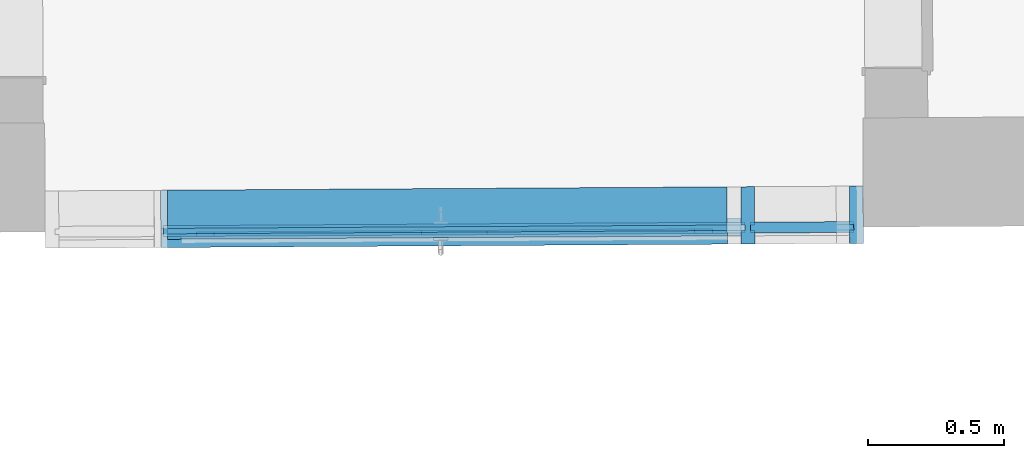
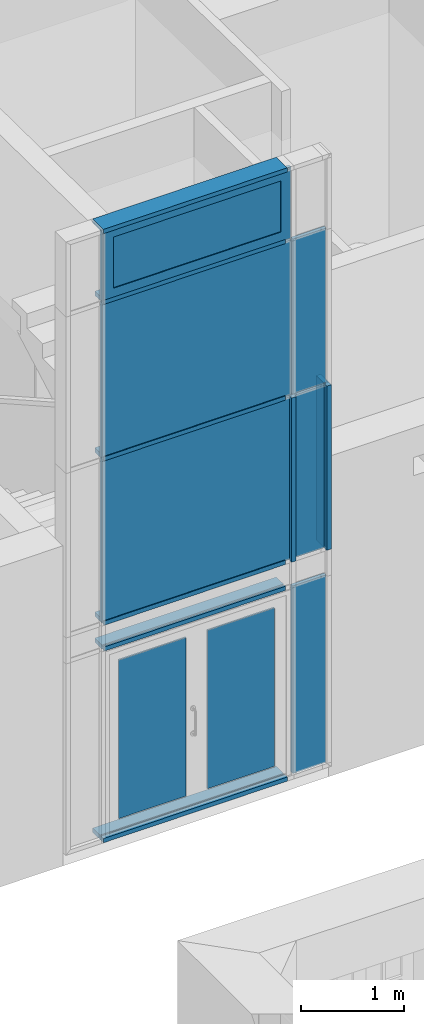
# One storey, part 117 of 196: 17 building element parts, 1 element without a shape of its own.
"""IFC2X3 building model written with IfcOpenShell, lengths in metres."""

from ifc_helpers import new_model, entity, si_unit, converted_unit, derived_unit, money_unit, direction, frame, origin_with_axes, place, context, subcontext, project, spatial, open_shell, faceted_brep, surface_model, material, type_object, element, aggregate, save


model = new_model("IFC2X3")

# Units and contexts
model_context = context("Model", 3, precision=1e-05, world=origin_with_axes(), true_north=direction((0.0, 1.0)))
body_context = subcontext(model_context, "Body", "Model", "MODEL_VIEW")
ifc_project = project(units=[si_unit("LENGTHUNIT", "METRE"), si_unit("AREAUNIT", "SQUARE_METRE"), si_unit("VOLUMEUNIT", "CUBIC_METRE"), converted_unit("PLANEANGLEUNIT", "DEGREE", entity("IfcPlaneAngleMeasure", 0.0174532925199), si_unit("PLANEANGLEUNIT", "RADIAN"), dimensions=[0, 0, 0, 0, 0, 0, 0]), money_unit("EUR"), converted_unit("TIMEUNIT", "Year", entity("IfcTimeMeasure", 31556926.0), si_unit("TIMEUNIT", "SECOND"), dimensions=[0, 0, 1, 0, 0, 0, 0]), si_unit("MASSUNIT", "GRAM", prefix="KILO"), si_unit("THERMODYNAMICTEMPERATUREUNIT", "DEGREE_CELSIUS"), si_unit("LUMINOUSINTENSITYUNIT", "LUMEN"), si_unit("ENERGYUNIT", "JOULE", prefix="MEGA"), derived_unit("THERMALCONDUCTANCEUNIT", [(si_unit("POWERUNIT", "WATT"), 1), (si_unit("LENGTHUNIT", "METRE"), -1), (si_unit("THERMODYNAMICTEMPERATUREUNIT", "KELVIN"), -1)]), derived_unit("SPECIFICHEATCAPACITYUNIT", [(si_unit("ENERGYUNIT", "JOULE"), 1), (si_unit("MASSUNIT", "GRAM", prefix="KILO"), -1), (si_unit("THERMODYNAMICTEMPERATUREUNIT", "KELVIN"), -1)]), derived_unit("MASSDENSITYUNIT", [(si_unit("MASSUNIT", "GRAM", prefix="KILO"), 1), (si_unit("VOLUMEUNIT", "CUBIC_METRE"), -1)])], contexts=[model_context])

# Site, building, storey
site_placement = place(None, origin_with_axes())
site = spatial("IfcSite", under=ifc_project, at=site_placement, Name="Gelände", CompositionType="ELEMENT")
building_placement = place(site_placement, origin_with_axes())
building = spatial("IfcBuilding", under=site, at=building_placement, Name="Gebäude", CompositionType="ELEMENT")
storey_placement = place(building_placement, frame((0.0, 0.0, -3.0), z_axis=(0.0, 0.0, 1.0), x_axis=(1.0, 0.0, 0.0)))
storey = spatial("IfcBuildingStorey", under=building, at=storey_placement, Name="KELLERGESCHOSS", CompositionType="ELEMENT", Elevation=-3.0)

# Proxy, building element parts
building_element_proxy_type = type_object("IfcBuildingElementProxyType", Name="Fassadentyp", PredefinedType="NOTDEFINED")
proxy_placement = place(storey_placement, frame((-23.8310150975, 30.9074049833, 0.410855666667), z_axis=(0.0, 0.0, 1.0), x_axis=(1.0, 0.0, 0.0)))
proxy = element("IfcBuildingElementProxy", 1, at=proxy_placement, inside=storey, type_object=building_element_proxy_type, Name="Fassade-002")
ifc_material_1 = material(Name="45_Glas, Normalglas")
building_element_part_1_placement = place(proxy_placement, origin_with_axes())
building_element_part_1 = element("IfcBuildingElementPart", 2, at=building_element_part_1_placement, material=ifc_material_1, Name="45_Glas, Normalglas", context=body_context, shape_type="Brep", body=[
    faceted_brep([(0.147138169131, 0.0208810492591, 2.26812767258), (0.0833492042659, 0.020499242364, 2.26812767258), (0.0835886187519, -0.0195000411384, 2.26812767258), (0.147377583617, -0.0191182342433, 2.26812767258), (0.147138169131, 0.0208810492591, 0.0350000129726), (0.0833492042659, 0.020499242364, 0.0350000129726), (-0.230846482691, 0.0186186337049, 0.0350000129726), (-0.230846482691, 0.0186186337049, 2.26812767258), (-0.230607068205, -0.0213806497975, 2.26812767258), (-0.230607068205, -0.0213806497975, 0.0350000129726), (0.0835886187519, -0.0195000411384, 0.0350000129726), (0.147377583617, -0.0191182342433, 0.0350000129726)], [[[0, 1, 2, 3]], [[0, 4, 5, 6, 7, 1]], [[1, 7, 8, 2]], [[3, 2, 8, 9, 10, 11]], [[4, 0, 3, 11]], [[5, 4, 11, 10]], [[6, 5, 10, 9]], [[7, 6, 9, 8]]]),
])
building_element_part_2_placement = place(proxy_placement, origin_with_axes())
building_element_part_2 = element("IfcBuildingElementPart", 3, at=building_element_part_2_placement, material=ifc_material_1, Name="45_Glas, Normalglas", context=body_context, shape_type="Brep", body=[
    faceted_brep([(-2.19772183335, -0.0171544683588, 0.195000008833), (-1.43670835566, -0.0125994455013, 0.195000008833), (-1.43661258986, -0.0285991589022, 0.195000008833), (-2.19762606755, -0.0331541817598, 0.195000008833), (-2.19772183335, -0.0171544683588, 2.08312767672), (-1.43670835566, -0.0125994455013, 2.08312767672), (-1.43661258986, -0.0285991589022, 2.08312767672), (-2.19762606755, -0.0331541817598, 2.08312767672)], [[[0, 1, 2, 3]], [[0, 4, 5, 1]], [[1, 5, 6, 2]], [[3, 2, 6, 7]], [[4, 0, 3, 7]], [[5, 4, 7, 6]]]),
    faceted_brep([(-1.19671265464, -0.0111629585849, 0.195000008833), (-0.435699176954, -0.00660793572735, 0.195000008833), (-0.435603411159, -0.0226076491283, 0.195000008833), (-1.19661688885, -0.0271626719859, 0.195000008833), (-1.19671265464, -0.0111629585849, 2.08312767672), (-0.435699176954, -0.00660793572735, 2.08312767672), (-0.435603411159, -0.0226076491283, 2.08312767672), (-1.19661688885, -0.0271626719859, 2.08312767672)], [[[0, 1, 2, 3]], [[0, 4, 5, 1]], [[1, 5, 6, 2]], [[3, 2, 6, 7]], [[4, 0, 3, 7]], [[5, 4, 7, 6]]]),
])
building_element_part_3_placement = place(proxy_placement, origin_with_axes())
building_element_part_3 = element("IfcBuildingElementPart", 4, at=building_element_part_3_placement, material=ifc_material_1, Name="45_Glas, Normalglas", context=body_context, shape_type="Brep", body=[
    faceted_brep([(-0.250846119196, 0.0184989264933, 4.53226285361), (-0.316643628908, 0.0181050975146, 4.53226285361), (-0.316404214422, -0.0218941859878, 4.53226285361), (-0.25060670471, -0.0215003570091, 4.53226285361), (-0.250846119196, 0.0184989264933, 2.59656080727), (-0.316643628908, 0.0181050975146, 2.59656080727), (-2.38286219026, 0.00573780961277, 2.59656080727), (-2.38286219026, 0.00573780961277, 4.53226285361), (-2.38262277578, -0.0342614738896, 4.53226285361), (-2.38262277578, -0.0342614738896, 2.59656080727), (-0.316404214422, -0.0218941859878, 2.59656080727), (-0.25060670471, -0.0215003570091, 2.59656080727)], [[[0, 1, 2, 3]], [[0, 4, 5, 6, 7, 1]], [[1, 7, 8, 2]], [[3, 2, 8, 9, 10, 11]], [[4, 0, 3, 11]], [[5, 4, 11, 10]], [[6, 5, 10, 9]], [[7, 6, 9, 8]]]),
])
ifc_material_2 = material(Name="53_Metall, Aluminium")
building_element_part_4_placement = place(proxy_placement, origin_with_axes())
building_element_part_4 = element("IfcBuildingElementPart", 5, at=building_element_part_4_placement, material=ifc_material_2, Name="53_Metall, Aluminium", context=body_context, shape_type="SurfaceModel", body=[
    surface_model("IfcShellBasedSurfaceModel", [(-2.36756319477, -0.0441715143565, 6.43094888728), (-2.2925645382, -0.0437226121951, 6.50594888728), (-0.340545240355, -0.0320388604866, 6.50594888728), (-0.265546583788, -0.0315899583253, 6.43094888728)], [open_shell([[[0, 1, 2, 3]]])]),
    surface_model("IfcShellBasedSurfaceModel", [(-0.265546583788, -0.0315899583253, 6.43094888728), (-0.340545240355, -0.0320388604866, 6.50594888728), (-0.340545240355, -0.0320388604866, 7.175000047), (-0.265546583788, -0.0315899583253, 7.250000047)], [open_shell([[[0, 1, 2, 3]]])]),
    surface_model("IfcShellBasedSurfaceModel", [(-2.36756319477, -0.0441715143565, 7.250000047), (-0.265546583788, -0.0315899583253, 7.250000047), (-0.340545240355, -0.0320388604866, 7.175000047), (-2.2925645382, -0.0437226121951, 7.175000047)], [open_shell([[[0, 1, 2, 3]]])]),
    surface_model("IfcShellBasedSurfaceModel", [(-2.36756319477, -0.0441715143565, 6.43094888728), (-2.36756319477, -0.0441715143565, 7.250000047), (-2.2925645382, -0.0437226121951, 7.175000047), (-2.2925645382, -0.0437226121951, 6.50594888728)], [open_shell([[[0, 1, 2, 3]]])]),
    faceted_brep([(-2.36795224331, 0.0208273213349, 6.43094888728), (-0.265935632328, 0.0334088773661, 6.43094888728), (-0.265546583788, -0.0315899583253, 6.43094888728), (-2.36756319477, -0.0441715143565, 6.43094888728), (-2.31795313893, 0.0211265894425, 6.48094888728), (-0.315934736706, 0.0331096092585, 6.48094888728), (-0.315545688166, -0.0318892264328, 6.48094888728), (-2.31756409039, -0.0438722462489, 6.48094888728)], [[[0, 1, 2, 3]], [[0, 4, 5, 1]], [[1, 5, 6, 2]], [[3, 2, 6, 7]], [[4, 0, 3, 7]], [[5, 4, 7, 6]]]),
    faceted_brep([(-0.265935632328, 0.0334088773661, 6.43094888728), (-0.265935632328, 0.0334088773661, 7.250000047), (-0.265546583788, -0.0315899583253, 7.250000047), (-0.265546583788, -0.0315899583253, 6.43094888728), (-0.315934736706, 0.0331096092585, 6.48094888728), (-0.315934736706, 0.0331096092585, 7.200000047), (-0.315545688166, -0.0318892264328, 7.200000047), (-0.315545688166, -0.0318892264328, 6.48094888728)], [[[0, 1, 2, 3]], [[0, 4, 5, 1]], [[1, 5, 6, 2]], [[3, 2, 6, 7]], [[4, 0, 3, 7]], [[5, 4, 7, 6]]]),
    faceted_brep([(-2.36795224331, 0.0208273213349, 7.250000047), (-2.31795313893, 0.0211265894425, 7.200000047), (-2.31756409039, -0.0438722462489, 7.200000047), (-2.36756319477, -0.0441715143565, 7.250000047), (-0.265935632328, 0.0334088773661, 7.250000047), (-0.315934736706, 0.0331096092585, 7.200000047), (-0.315545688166, -0.0318892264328, 7.200000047), (-0.265546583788, -0.0315899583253, 7.250000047)], [[[0, 1, 2, 3]], [[0, 4, 5, 1]], [[1, 5, 6, 2]], [[3, 2, 6, 7]], [[4, 0, 3, 7]], [[5, 4, 7, 6]]]),
    faceted_brep([(-2.36795224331, 0.0208273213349, 6.43094888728), (-2.31795313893, 0.0211265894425, 6.48094888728), (-2.31756409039, -0.0438722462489, 6.48094888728), (-2.36756319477, -0.0441715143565, 6.43094888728), (-2.36795224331, 0.0208273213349, 7.250000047), (-2.31795313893, 0.0211265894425, 7.200000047), (-2.31756409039, -0.0438722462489, 7.200000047), (-2.36756319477, -0.0441715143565, 7.250000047)], [[[0, 1, 2, 3]], [[0, 4, 5, 1]], [[1, 5, 6, 2]], [[3, 2, 6, 7]], [[4, 0, 3, 7]], [[5, 4, 7, 6]]]),
    faceted_brep([(-2.38286219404, 0.00573780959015, 6.41594888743), (-0.250846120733, 0.0184989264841, 6.41594888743), (-0.250606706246, -0.0215003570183, 6.41594888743), (-2.38262277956, -0.0342614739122, 6.41594888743), (-2.36786246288, 0.00582759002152, 6.43094888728), (-0.265845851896, 0.0184091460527, 6.43094888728), (-0.26560643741, -0.0215901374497, 6.43094888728), (-2.36762304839, -0.0341716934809, 6.43094888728)], [[[0, 1, 2, 3]], [[0, 4, 5, 1]], [[1, 5, 6, 2]], [[3, 2, 6, 7]], [[4, 0, 3, 7]], [[5, 4, 7, 6]]]),
    faceted_brep([(-0.250846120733, 0.0184989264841, 6.41594888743), (-0.250846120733, 0.0184989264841, 7.26500004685), (-0.250606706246, -0.0215003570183, 7.26500004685), (-0.250606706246, -0.0215003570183, 6.41594888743), (-0.265845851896, 0.0184091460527, 6.43094888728), (-0.265845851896, 0.0184091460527, 7.250000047), (-0.26560643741, -0.0215901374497, 7.250000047), (-0.26560643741, -0.0215901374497, 6.43094888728)], [[[0, 1, 2, 3]], [[0, 4, 5, 1]], [[1, 5, 6, 2]], [[3, 2, 6, 7]], [[4, 0, 3, 7]], [[5, 4, 7, 6]]]),
    faceted_brep([(-0.250846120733, 0.0184989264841, 7.26500004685), (-2.38286219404, 0.00573780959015, 7.26500004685), (-2.38262277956, -0.0342614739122, 7.26500004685), (-0.250606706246, -0.0215003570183, 7.26500004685), (-0.265845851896, 0.0184091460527, 7.250000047), (-2.36786246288, 0.00582759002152, 7.250000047), (-2.36762304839, -0.0341716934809, 7.250000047), (-0.26560643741, -0.0215901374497, 7.250000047)], [[[0, 1, 2, 3]], [[0, 4, 5, 1]], [[1, 5, 6, 2]], [[3, 2, 6, 7]], [[4, 0, 3, 7]], [[5, 4, 7, 6]]]),
    faceted_brep([(-2.38286219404, 0.00573780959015, 7.26500004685), (-2.38286219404, 0.00573780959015, 6.41594888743), (-2.38262277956, -0.0342614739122, 6.41594888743), (-2.38262277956, -0.0342614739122, 7.26500004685), (-2.36786246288, 0.00582759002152, 7.250000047), (-2.36786246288, 0.00582759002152, 6.43094888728), (-2.36762304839, -0.0341716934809, 6.43094888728), (-2.36762304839, -0.0341716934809, 7.250000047)], [[[0, 1, 2, 3]], [[0, 4, 5, 1]], [[1, 5, 6, 2]], [[3, 2, 6, 7]], [[4, 0, 3, 7]], [[5, 4, 7, 6]]]),
    faceted_brep([(-2.26256507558, -0.0435430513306, 6.53594888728), (-2.26295412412, 0.0214557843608, 6.53594888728), (-2.26295412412, 0.0214557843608, 7.145000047), (-2.26256507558, -0.0435430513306, 7.145000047), (-2.31756409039, -0.0438722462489, 6.48094888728), (-2.31795313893, 0.0211265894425, 6.48094888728), (-2.31795313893, 0.0211265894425, 7.200000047), (-2.31756409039, -0.0438722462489, 7.200000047)], [[[0, 1, 2, 3]], [[4, 5, 1, 0]], [[1, 5, 6, 2]], [[3, 2, 6, 7]], [[0, 3, 7, 4]], [[7, 6, 5, 4]]]),
    faceted_brep([(-0.315545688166, -0.0318892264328, 6.48094888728), (-0.315934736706, 0.0331096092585, 6.48094888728), (-0.315934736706, 0.0331096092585, 7.200000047), (-0.315545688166, -0.0318892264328, 7.200000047), (-0.370544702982, -0.0322184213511, 6.53594888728), (-0.370933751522, 0.0327804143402, 6.53594888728), (-0.370933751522, 0.0327804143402, 7.145000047), (-0.370544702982, -0.0322184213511, 7.145000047)], [[[0, 1, 2, 3]], [[4, 5, 1, 0]], [[1, 5, 6, 2]], [[3, 2, 6, 7]], [[0, 3, 7, 4]], [[7, 6, 5, 4]]]),
    faceted_brep([(-0.315545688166, -0.0318892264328, 6.48094888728), (-0.315934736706, 0.0331096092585, 6.48094888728), (-0.370933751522, 0.0327804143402, 6.53594888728), (-0.370544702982, -0.0322184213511, 6.53594888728), (-2.31756409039, -0.0438722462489, 6.48094888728), (-2.31795313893, 0.0211265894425, 6.48094888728), (-2.26295412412, 0.0214557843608, 6.53594888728), (-2.26256507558, -0.0435430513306, 6.53594888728)], [[[0, 1, 2, 3]], [[4, 5, 1, 0]], [[1, 5, 6, 2]], [[3, 2, 6, 7]], [[0, 3, 7, 4]], [[7, 6, 5, 4]]]),
    faceted_brep([(-2.31756409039, -0.0438722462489, 7.200000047), (-2.31795313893, 0.0211265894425, 7.200000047), (-2.26295412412, 0.0214557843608, 7.145000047), (-2.26256507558, -0.0435430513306, 7.145000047), (-0.315545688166, -0.0318892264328, 7.200000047), (-0.315934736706, 0.0331096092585, 7.200000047), (-0.370933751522, 0.0327804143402, 7.145000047), (-0.370544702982, -0.0322184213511, 7.145000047)], [[[0, 1, 2, 3]], [[4, 5, 1, 0]], [[1, 5, 6, 2]], [[3, 2, 6, 7]], [[0, 3, 7, 4]], [[7, 6, 5, 4]]]),
])
building_element_part_5_placement = place(proxy_placement, origin_with_axes())
building_element_part_5 = element("IfcBuildingElementPart", 6, at=building_element_part_5_placement, material=ifc_material_1, Name="45_Glas, Normalglas", context=body_context, shape_type="Brep", body=[
    faceted_brep([(-2.2626249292, -0.033543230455, 6.53594888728), (-2.26272069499, -0.017543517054, 6.53594888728), (-0.370700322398, -0.0062188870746, 6.53594888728), (-0.370604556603, -0.0222186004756, 6.53594888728), (-2.2626249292, -0.033543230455, 7.145000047), (-2.26272069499, -0.017543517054, 7.145000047), (-0.370700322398, -0.0062188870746, 7.145000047), (-0.370604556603, -0.0222186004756, 7.145000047)], [[[0, 1, 2, 3]], [[4, 5, 1, 0]], [[1, 5, 6, 2]], [[3, 2, 6, 7]], [[0, 3, 7, 4]], [[7, 6, 5, 4]]]),
])
building_element_part_6_placement = place(proxy_placement, origin_with_axes())
building_element_part_6 = element("IfcBuildingElementPart", 7, at=building_element_part_6_placement, material=ifc_material_1, Name="45_Glas, Normalglas", context=body_context, shape_type="Brep", body=[
    faceted_brep([(0.147138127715, 0.0208810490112, 4.53226285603), (0.0833492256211, 0.0204992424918, 4.53226285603), (0.0835886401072, -0.0195000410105, 4.53226285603), (0.147377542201, -0.0191182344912, 4.53226285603), (0.147138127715, 0.0208810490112, 2.59656079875), (0.0833492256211, 0.0204992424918, 2.59656079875), (-0.230846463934, 0.0186186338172, 2.59656079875), (-0.230846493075, 0.0186186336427, 4.53226285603), (-0.230607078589, -0.0213806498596, 4.53226285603), (-0.230607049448, -0.0213806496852, 2.59656079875), (0.0835886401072, -0.0195000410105, 2.59656079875), (0.147377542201, -0.0191182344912, 2.59656079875)], [[[0, 1, 2, 3]], [[0, 4, 5, 6, 7, 1]], [[1, 7, 8, 2]], [[3, 2, 8, 9, 10, 11]], [[4, 0, 3, 11]], [[5, 4, 11, 10]], [[6, 5, 10, 9]], [[7, 6, 9, 8]]]),
])
building_element_part_7_placement = place(proxy_placement, origin_with_axes())
building_element_part_7 = element("IfcBuildingElementPart", 8, at=building_element_part_7_placement, material=ifc_material_1, Name="45_Glas, Normalglas", context=body_context, shape_type="Brep", body=[
    faceted_brep([(-0.250846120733, 0.0184989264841, 6.39594890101), (-0.316643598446, 0.0181050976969, 6.39594890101), (-0.31640418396, -0.0218941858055, 6.39594890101), (-0.250606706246, -0.0215003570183, 6.39594890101), (-0.250846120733, 0.0184989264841, 4.5522628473), (-0.316643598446, 0.0181050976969, 4.5522628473), (-2.38286219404, 0.00573780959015, 4.5522628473), (-2.38286219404, 0.00573780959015, 6.39594890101), (-2.38262277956, -0.0342614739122, 6.39594890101), (-2.38262277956, -0.0342614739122, 4.5522628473), (-0.31640418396, -0.0218941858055, 4.5522628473), (-0.250606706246, -0.0215003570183, 4.5522628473)], [[[0, 1, 2, 3]], [[0, 4, 5, 6, 7, 1]], [[1, 7, 8, 2]], [[3, 2, 8, 9, 10, 11]], [[4, 0, 3, 11]], [[5, 4, 11, 10]], [[6, 5, 10, 9]], [[7, 6, 9, 8]]]),
])
building_element_part_8_placement = place(proxy_placement, origin_with_axes())
building_element_part_8 = element("IfcBuildingElementPart", 9, at=building_element_part_8_placement, material=ifc_material_1, Name="45_Glas, Normalglas", context=body_context, shape_type="Brep", body=[
    faceted_brep([(0.147138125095, 0.0208810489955, 6.39594889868), (0.0833492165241, 0.0204992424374, 6.39594889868), (0.0835886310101, -0.019500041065, 6.39594889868), (0.147377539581, -0.0191182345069, 6.39594889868), (0.147138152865, 0.0208810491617, 4.55226283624), (0.0833492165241, 0.0204992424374, 4.55226283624), (-0.230846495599, 0.0186186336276, 4.55226283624), (-0.230846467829, 0.0186186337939, 6.39594889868), (-0.230607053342, -0.0213806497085, 6.39594889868), (-0.230607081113, -0.0213806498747, 4.55226283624), (0.0835886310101, -0.019500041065, 4.55226283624), (0.147377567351, -0.0191182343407, 4.55226283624)], [[[0, 1, 2, 3]], [[0, 4, 5, 6, 7, 1]], [[1, 7, 8, 2]], [[3, 2, 8, 9, 10, 11]], [[4, 0, 3, 11]], [[5, 4, 11, 10]], [[6, 5, 10, 9]], [[7, 6, 9, 8]]]),
])
building_element_part_9_placement = place(proxy_placement, origin_with_axes())
building_element_part_9 = element("IfcBuildingElementPart", 10, at=building_element_part_9_placement, material=ifc_material_2, Name="53_Metall, Aluminium", context=body_context, shape_type="Brep", body=[
    faceted_brep([(-0.31658376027, 0.00810527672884, 6.39594888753), (-0.31658376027, 0.00810527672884, 6.38094888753), (-0.317421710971, 0.148102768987, 6.38094888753), (-0.317421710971, 0.148102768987, 6.43094888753), (-0.31658376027, 0.00810527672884, 6.43094888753), (-0.31658376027, 0.00810527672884, 6.41594888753), (-0.316464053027, -0.0118943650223, 6.41594888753), (-0.316464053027, -0.0118943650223, 6.43094888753), (-0.316344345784, -0.0318940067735, 6.43094888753), (-0.316344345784, -0.0318940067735, 6.38094888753), (-0.316464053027, -0.0118943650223, 6.38094888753), (-0.316464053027, -0.0118943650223, 6.39594888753), (-2.36780260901, -0.00417223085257, 6.39594888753), (-2.36780260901, -0.00417223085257, 6.38094888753), (-2.36864055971, 0.135825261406, 6.38094888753), (-2.36864055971, 0.135825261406, 6.43094888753), (-2.36780260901, -0.00417223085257, 6.43094888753), (-2.36780260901, -0.00417223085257, 6.41594888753), (-2.36768290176, -0.0241718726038, 6.41594888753), (-2.36768290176, -0.0241718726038, 6.43094888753), (-2.36756319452, -0.044171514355, 6.43094888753), (-2.36756319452, -0.044171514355, 6.38094888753), (-2.36768290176, -0.0241718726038, 6.38094888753), (-2.36768290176, -0.0241718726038, 6.39594888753)], [[[0, 1, 2, 3, 4, 5, 6, 7, 8, 9, 10, 11]], [[1, 0, 12, 13]], [[1, 13, 14, 2]], [[2, 14, 15, 3]], [[4, 3, 15, 16]], [[4, 16, 17, 5]], [[5, 17, 18, 6]], [[7, 6, 18, 19]], [[19, 20, 8, 7]], [[8, 20, 21, 9]], [[22, 10, 9, 21]], [[11, 10, 22, 23]], [[0, 11, 23, 12]], [[23, 22, 21, 20, 19, 18, 17, 16, 15, 14, 13, 12]]]),
])
building_element_part_10_placement = place(proxy_placement, origin_with_axes())
building_element_part_10 = element("IfcBuildingElementPart", 11, at=building_element_part_10_placement, material=ifc_material_2, Name="53_Metall, Aluminium", context=body_context, shape_type="Brep", body=[
    faceted_brep([(-0.230786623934, 0.00861881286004, 4.54226284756), (-0.215786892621, 0.00870859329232, 4.54226284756), (-0.216624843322, 0.148706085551, 4.54226284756), (-0.2666239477, 0.148406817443, 4.54226284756), (-0.265785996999, 0.00840932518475, 4.54226284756), (-0.250786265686, 0.00849910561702, 4.54226284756), (-0.250666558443, -0.0115005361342, 4.54226284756), (-0.265666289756, -0.0115903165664, 4.54226284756), (-0.265367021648, -0.0615894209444, 4.54226284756), (-0.21536791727, -0.0612901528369, 4.54226284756), (-0.215667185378, -0.0112910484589, 4.54226284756), (-0.230666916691, -0.0113808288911, 4.54226284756), (-0.230786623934, 0.00861881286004, 2.58656080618), (-0.215786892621, 0.00870859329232, 2.58656080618), (-0.216624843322, 0.148706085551, 2.58656080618), (-0.2666239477, 0.148406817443, 2.58656080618), (-0.265785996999, 0.00840932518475, 2.58656080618), (-0.250786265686, 0.00849910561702, 2.58656080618), (-0.250666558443, -0.0115005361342, 2.58656080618), (-0.265666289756, -0.0115903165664, 2.58656080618), (-0.265367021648, -0.0615894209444, 2.58656080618), (-0.21536791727, -0.0612901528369, 2.58656080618), (-0.215667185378, -0.0112910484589, 2.58656080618), (-0.230666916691, -0.0113808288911, 2.58656080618)], [[[0, 1, 2, 3, 4, 5, 6, 7, 8, 9, 10, 11]], [[1, 0, 12, 13]], [[1, 13, 14, 2]], [[3, 2, 14, 15]], [[4, 3, 15, 16]], [[4, 16, 17, 5]], [[5, 17, 18, 6]], [[7, 6, 18, 19]], [[19, 20, 8, 7]], [[9, 8, 20, 21]], [[22, 10, 9, 21]], [[11, 10, 22, 23]], [[0, 11, 23, 12]], [[23, 22, 21, 20, 19, 18, 17, 16, 15, 14, 13, 12]]]),
])
building_element_part_11_placement = place(proxy_placement, origin_with_axes())
building_element_part_11 = element("IfcBuildingElementPart", 12, at=building_element_part_11_placement, material=ifc_material_2, Name="53_Metall, Aluminium", context=body_context, shape_type="Brep", body=[
    faceted_brep([(0.14734139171, 0.010882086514, 4.54226284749), (0.147461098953, -0.0091175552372, 4.54226284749), (0.132461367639, -0.00920733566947, 4.54226284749), (0.132760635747, -0.0592064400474, 4.54226284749), (0.182759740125, -0.0589071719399, 4.54226284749), (0.181502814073, 0.151089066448, 4.54226284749), (0.131503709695, 0.15078979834, 4.54226284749), (0.132341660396, 0.0107923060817, 4.54226284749), (0.14734139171, 0.010882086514, 2.58656080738), (0.147461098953, -0.0091175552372, 2.58656080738), (0.132461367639, -0.00920733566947, 2.58656080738), (0.132760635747, -0.0592064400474, 2.58656080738), (0.182759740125, -0.0589071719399, 2.58656080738), (0.181502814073, 0.151089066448, 2.58656080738), (0.131503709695, 0.15078979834, 2.58656080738), (0.132341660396, 0.0107923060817, 2.58656080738)], [[[0, 1, 2, 3, 4, 5, 6, 7]], [[1, 0, 8, 9]], [[10, 2, 1, 9]], [[2, 10, 11, 3]], [[12, 4, 3, 11]], [[13, 5, 4, 12]], [[14, 6, 5, 13]], [[15, 7, 6, 14]], [[0, 7, 15, 8]], [[8, 15, 14, 13, 12, 11, 10, 9]]]),
])
building_element_part_12_placement = place(proxy_placement, origin_with_axes())
building_element_part_12 = element("IfcBuildingElementPart", 13, at=building_element_part_12_placement, material=ifc_material_2, Name="53_Metall, Aluminium", context=body_context, shape_type="Brep", body=[
    faceted_brep([(0.167197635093, 0.0110009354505, 4.54226284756), (0.182197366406, 0.0110907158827, 4.54226284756), (0.181359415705, 0.151088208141, 4.54226284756), (0.131360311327, 0.150788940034, 4.54226284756), (0.132198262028, 0.0107914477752, 4.54226284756), (0.147197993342, 0.0108812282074, 4.54226284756), (0.147317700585, -0.00911841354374, 4.54226284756), (0.132317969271, -0.00920819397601, 4.54226284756), (0.132617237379, -0.059207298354, 4.54226284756), (0.182616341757, -0.0589080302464, 4.54226284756), (0.182317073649, -0.00890892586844, 4.54226284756), (0.167317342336, -0.00899870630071, 4.54226284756), (0.167197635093, 0.0110009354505, 2.58656080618), (0.182197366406, 0.0110907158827, 2.58656080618), (0.181359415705, 0.151088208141, 2.58656080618), (0.131360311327, 0.150788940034, 2.58656080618), (0.132198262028, 0.0107914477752, 2.58656080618), (0.147197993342, 0.0108812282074, 2.58656080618), (0.147317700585, -0.00911841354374, 2.58656080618), (0.132317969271, -0.00920819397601, 2.58656080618), (0.132617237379, -0.059207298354, 2.58656080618), (0.182616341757, -0.0589080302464, 2.58656080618), (0.182317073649, -0.00890892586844, 2.58656080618), (0.167317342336, -0.00899870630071, 2.58656080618)], [[[0, 1, 2, 3, 4, 5, 6, 7, 8, 9, 10, 11]], [[1, 0, 12, 13]], [[1, 13, 14, 2]], [[3, 2, 14, 15]], [[4, 3, 15, 16]], [[4, 16, 17, 5]], [[5, 17, 18, 6]], [[7, 6, 18, 19]], [[19, 20, 8, 7]], [[9, 8, 20, 21]], [[22, 10, 9, 21]], [[11, 10, 22, 23]], [[0, 11, 23, 12]], [[23, 22, 21, 20, 19, 18, 17, 16, 15, 14, 13, 12]]]),
])
building_element_part_13_placement = place(proxy_placement, origin_with_axes())
building_element_part_13 = element("IfcBuildingElementPart", 14, at=building_element_part_13_placement, material=ifc_material_2, Name="53_Metall, Aluminium", context=body_context, shape_type="Brep", body=[
    faceted_brep([(-0.31658376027, 0.00810527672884, 0.035), (-0.316464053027, -0.0118943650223, 0.035), (-0.316464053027, -0.0118943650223, 0.05), (-0.316164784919, -0.0618934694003, 0.05), (-0.316164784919, -0.0618934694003, 0.0), (-0.317421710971, 0.148102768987, 0.0), (-0.317421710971, 0.148102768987, 0.05), (-0.31658376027, 0.00810527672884, 0.05), (-2.39280213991, -0.00432186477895, 0.035), (-2.39268243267, -0.0243215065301, 0.035), (-2.39268243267, -0.0243215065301, 0.05), (-2.39238316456, -0.0743206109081, 0.05), (-2.39238316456, -0.0743206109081, 0.0), (-2.39364009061, 0.135675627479, 0.0), (-2.39364009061, 0.135675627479, 0.05), (-2.39280213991, -0.00432186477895, 0.05)], [[[0, 1, 2, 3, 4, 5, 6, 7]], [[1, 0, 8, 9]], [[10, 2, 1, 9]], [[2, 10, 11, 3]], [[12, 4, 3, 11]], [[13, 5, 4, 12]], [[14, 6, 5, 13]], [[15, 7, 6, 14]], [[0, 7, 15, 8]], [[8, 15, 14, 13, 12, 11, 10, 9]]]),
])
building_element_part_14_placement = place(proxy_placement, origin_with_axes())
building_element_part_14 = element("IfcBuildingElementPart", 15, at=building_element_part_14_placement, material=ifc_material_2, Name="53_Metall, Aluminium", context=body_context, shape_type="Brep", body=[
    faceted_brep([(-0.316583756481, 0.00810527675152, 2.57656080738), (-0.316583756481, 0.00810527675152, 2.56156080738), (-0.317421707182, 0.14810276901, 2.56156080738), (-0.317421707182, 0.14810276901, 2.61156080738), (-0.316583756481, 0.00810527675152, 2.61156080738), (-0.316583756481, 0.00810527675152, 2.59656080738), (-0.316464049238, -0.0118943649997, 2.59656080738), (-0.316464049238, -0.0118943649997, 2.61156080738), (-0.316344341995, -0.0318940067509, 2.61156080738), (-0.316344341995, -0.0318940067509, 2.56156080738), (-0.316464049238, -0.0118943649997, 2.56156080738), (-0.316464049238, -0.0118943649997, 2.57656080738), (-2.36780260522, -0.00417223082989, 2.57656080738), (-2.36780260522, -0.00417223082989, 2.56156080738), (-2.36864055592, 0.135825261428, 2.56156080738), (-2.36864055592, 0.135825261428, 2.61156080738), (-2.36780260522, -0.00417223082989, 2.61156080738), (-2.36780260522, -0.00417223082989, 2.59656080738), (-2.36768289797, -0.0241718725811, 2.59656080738), (-2.36768289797, -0.0241718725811, 2.61156080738), (-2.36756319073, -0.0441715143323, 2.61156080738), (-2.36756319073, -0.0441715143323, 2.56156080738), (-2.36768289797, -0.0241718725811, 2.56156080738), (-2.36768289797, -0.0241718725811, 2.57656080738)], [[[0, 1, 2, 3, 4, 5, 6, 7, 8, 9, 10, 11]], [[1, 0, 12, 13]], [[1, 13, 14, 2]], [[2, 14, 15, 3]], [[4, 3, 15, 16]], [[4, 16, 17, 5]], [[5, 17, 18, 6]], [[7, 6, 18, 19]], [[19, 20, 8, 7]], [[8, 20, 21, 9]], [[22, 10, 9, 21]], [[11, 10, 22, 23]], [[0, 11, 23, 12]], [[23, 22, 21, 20, 19, 18, 17, 16, 15, 14, 13, 12]]]),
])
building_element_part_15_placement = place(proxy_placement, origin_with_axes())
building_element_part_15 = element("IfcBuildingElementPart", 16, at=building_element_part_15_placement, material=ifc_material_2, Name="53_Metall, Aluminium", context=body_context, shape_type="Brep", body=[
    faceted_brep([(-0.316583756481, 0.00810527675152, 4.5322628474), (-0.316583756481, 0.00810527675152, 4.5172628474), (-0.317421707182, 0.14810276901, 4.5172628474), (-0.317421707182, 0.14810276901, 4.5672628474), (-0.316583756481, 0.00810527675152, 4.5672628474), (-0.316583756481, 0.00810527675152, 4.5522628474), (-0.316464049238, -0.0118943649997, 4.5522628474), (-0.316464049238, -0.0118943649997, 4.5672628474), (-0.316344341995, -0.0318940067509, 4.5672628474), (-0.316344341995, -0.0318940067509, 4.5172628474), (-0.316464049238, -0.0118943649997, 4.5172628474), (-0.316464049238, -0.0118943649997, 4.5322628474), (-2.36780260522, -0.00417223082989, 4.5322628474), (-2.36780260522, -0.00417223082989, 4.5172628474), (-2.36864055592, 0.135825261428, 4.5172628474), (-2.36864055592, 0.135825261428, 4.5672628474), (-2.36780260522, -0.00417223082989, 4.5672628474), (-2.36780260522, -0.00417223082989, 4.5522628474), (-2.36768289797, -0.0241718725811, 4.5522628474), (-2.36768289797, -0.0241718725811, 4.5672628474), (-2.36756319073, -0.0441715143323, 4.5672628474), (-2.36756319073, -0.0441715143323, 4.5172628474), (-2.36768289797, -0.0241718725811, 4.5172628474), (-2.36768289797, -0.0241718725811, 4.5322628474)], [[[0, 1, 2, 3, 4, 5, 6, 7, 8, 9, 10, 11]], [[1, 0, 12, 13]], [[1, 13, 14, 2]], [[2, 14, 15, 3]], [[4, 3, 15, 16]], [[4, 16, 17, 5]], [[5, 17, 18, 6]], [[7, 6, 18, 19]], [[19, 20, 8, 7]], [[8, 20, 21, 9]], [[22, 10, 9, 21]], [[11, 10, 22, 23]], [[0, 11, 23, 12]], [[23, 22, 21, 20, 19, 18, 17, 16, 15, 14, 13, 12]]]),
])
building_element_part_16_placement = place(proxy_placement, origin_with_axes())
building_element_part_16 = element("IfcBuildingElementPart", 17, at=building_element_part_16_placement, material=ifc_material_2, Name="53_Metall, Aluminium", context=body_context, shape_type="Brep", body=[
    faceted_brep([(-0.316583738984, 0.00810527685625, 2.26812768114), (-0.316583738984, 0.00810527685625, 2.25312768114), (-0.317421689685, 0.148102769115, 2.25312768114), (-0.317421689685, 0.148102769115, 2.30312768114), (-0.316583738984, 0.00810527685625, 2.30312768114), (-0.316583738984, 0.00810527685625, 2.28812768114), (-0.316464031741, -0.0118943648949, 2.28812768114), (-0.316464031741, -0.0118943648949, 2.30312768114), (-0.316344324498, -0.0318940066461, 2.30312768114), (-0.316344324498, -0.0318940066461, 2.25312768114), (-0.316464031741, -0.0118943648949, 2.25312768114), (-0.316464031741, -0.0118943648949, 2.26812768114), (-2.36780258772, -0.00417223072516, 2.26812768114), (-2.36780258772, -0.00417223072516, 2.25312768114), (-2.36864053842, 0.135825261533, 2.25312768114), (-2.36864053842, 0.135825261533, 2.30312768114), (-2.36780258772, -0.00417223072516, 2.30312768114), (-2.36780258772, -0.00417223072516, 2.28812768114), (-2.36768288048, -0.0241718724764, 2.28812768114), (-2.36768288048, -0.0241718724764, 2.30312768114), (-2.36756317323, -0.0441715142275, 2.30312768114), (-2.36756317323, -0.0441715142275, 2.25312768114), (-2.36768288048, -0.0241718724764, 2.25312768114), (-2.36768288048, -0.0241718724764, 2.26812768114)], [[[0, 1, 2, 3, 4, 5, 6, 7, 8, 9, 10, 11]], [[1, 0, 12, 13]], [[1, 13, 14, 2]], [[2, 14, 15, 3]], [[4, 3, 15, 16]], [[4, 16, 17, 5]], [[5, 17, 18, 6]], [[7, 6, 18, 19]], [[19, 20, 8, 7]], [[8, 20, 21, 9]], [[22, 10, 9, 21]], [[11, 10, 22, 23]], [[0, 11, 23, 12]], [[23, 22, 21, 20, 19, 18, 17, 16, 15, 14, 13, 12]]]),
])
building_element_part_17_placement = place(proxy_placement, origin_with_axes())
building_element_part_17 = element("IfcBuildingElementPart", 18, at=building_element_part_17_placement, material=ifc_material_2, Name="53_Metall, Aluminium", context=body_context, shape_type="Brep", body=[
    faceted_brep([(-2.39280213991, -0.00432186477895, 7.26500006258), (-2.39268243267, -0.0243215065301, 7.26500006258), (-2.39268243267, -0.0243215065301, 7.25000006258), (-2.39238316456, -0.0743206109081, 7.25000006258), (-2.39238316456, -0.0743206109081, 7.30000006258), (-2.39364009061, 0.135675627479, 7.30000006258), (-2.39364009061, 0.135675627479, 7.25000006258), (-2.39280213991, -0.00432186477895, 7.25000006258), (-0.31658376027, 0.00810527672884, 7.26500006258), (-0.316464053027, -0.0118943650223, 7.26500006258), (-0.316464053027, -0.0118943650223, 7.25000006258), (-0.316164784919, -0.0618934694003, 7.25000006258), (-0.316164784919, -0.0618934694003, 7.30000006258), (-0.317421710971, 0.148102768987, 7.30000006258), (-0.317421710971, 0.148102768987, 7.25000006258), (-0.31658376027, 0.00810527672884, 7.25000006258)], [[[0, 1, 2, 3, 4, 5, 6, 7]], [[1, 0, 8, 9]], [[10, 2, 1, 9]], [[2, 10, 11, 3]], [[12, 4, 3, 11]], [[13, 5, 4, 12]], [[14, 6, 5, 13]], [[15, 7, 6, 14]], [[0, 7, 15, 8]], [[8, 15, 14, 13, 12, 11, 10, 9]]]),
])
aggregate(proxy, [building_element_part_1, building_element_part_2, building_element_part_3, building_element_part_4, building_element_part_5, building_element_part_6, building_element_part_7, building_element_part_8, building_element_part_9, building_element_part_10, building_element_part_11, building_element_part_12, building_element_part_13, building_element_part_14, building_element_part_15, building_element_part_16, building_element_part_17])

save(model, "model.ifc")
